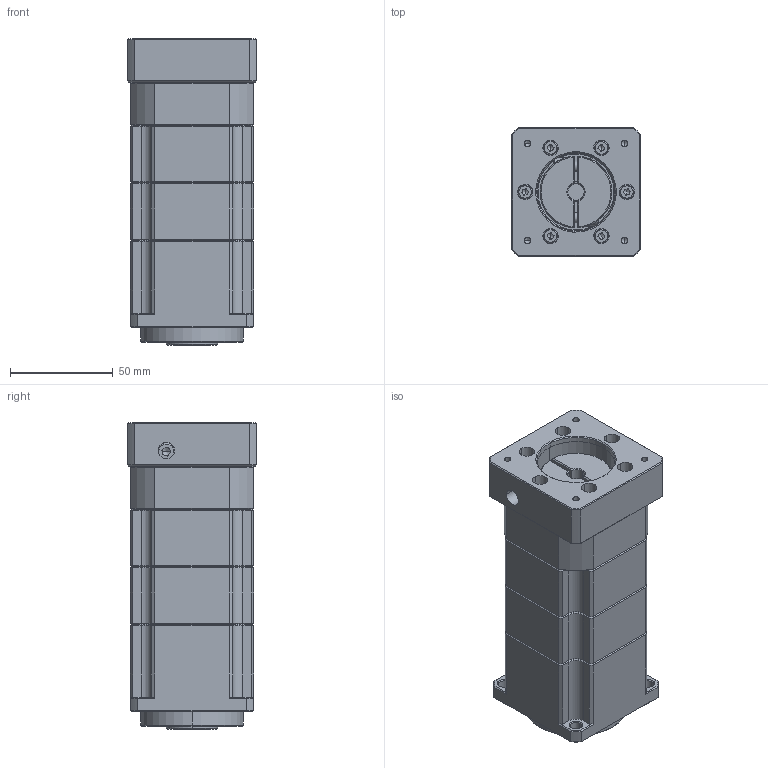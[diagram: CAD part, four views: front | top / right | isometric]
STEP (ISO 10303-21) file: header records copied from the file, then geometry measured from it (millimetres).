
FILE_DESCRIPTION (( 'STEP AP214' ), '1' );
FILE_NAME ('ZPB060-K16-L3-P1-8-38.1-47.14X47.14-M4.step', '2024-04-24T07:38:24', ( '' ), ( '' ), 'SwSTEP 2.0', 'SolidWorks 2016', '' );
FILE_SCHEMA (( 'AUTOMOTIVE_DESIGN' ));
Length unit declared in the file: millimetre
Products named in the file (1): ZPB060-K16-L3-P1-8-38.1-47.14X47.14-M4
Bounding box: 62.5 x 62.5 x 149 mm (x, y, z)
Volume: 434129.2 mm3; surface area: 76845.8 mm2
Topology: 12 solids, 13 shells, 1918 faces, 5064 edges, 3248 vertices
Faces by surface type: plane 1101, bspline 366, cylinder 241, cone 194, torus 16
Entity records: 94807 total; most frequent: CARTESIAN_POINT 28495, ORIENTED_EDGE 10056, DIRECTION 8005, EDGE_CURVE 5028, VECTOR 3359, LINE 3359, VERTEX_POINT 3248, AXIS2_PLACEMENT_3D 2323
